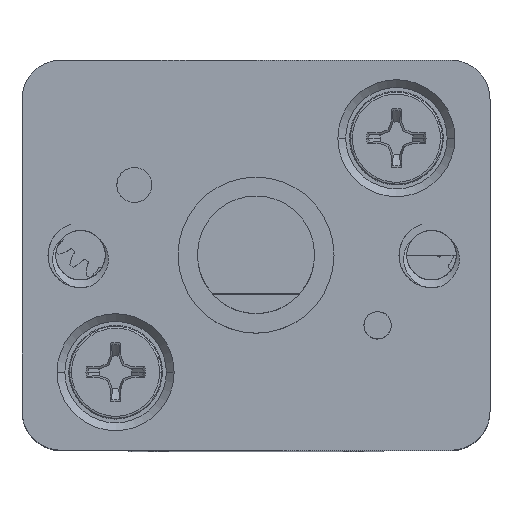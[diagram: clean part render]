
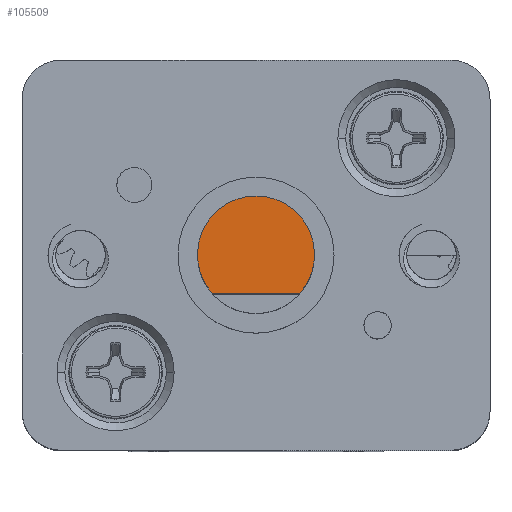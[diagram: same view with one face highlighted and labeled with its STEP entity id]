
A CAD part, top view. The second image highlights one B-rep face of the part: STEP entity #105509.
In plain terms, the highlighted planar face has unit normal (0, 0, 1).
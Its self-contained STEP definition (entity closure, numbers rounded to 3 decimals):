
#4926 = CARTESIAN_POINT ( 'NONE',  ( 0., 0., 10. ) ) ;
#9440 = CIRCLE ( 'NONE', #78369, 1.5 ) ;
#10069 = DIRECTION ( 'NONE',  ( 1., 0., 0. ) ) ;
#21149 = DIRECTION ( 'NONE',  ( 1., 0., 0. ) ) ;
#25763 = CARTESIAN_POINT ( 'NONE',  ( 1.118, -1., 10. ) ) ;
#28820 = VERTEX_POINT ( 'NONE', #37242 ) ;
#35487 = EDGE_CURVE ( 'NONE', #28820, #120498, #150772, .T. ) ;
#37242 = CARTESIAN_POINT ( 'NONE',  ( -1.5, 0., 10. ) ) ;
#45554 = ORIENTED_EDGE ( 'NONE', *, *, #35487, .F. ) ;
#46282 = LINE ( 'NONE', #54848, #79158 ) ;
#48266 = EDGE_CURVE ( 'NONE', #128253, #123071, #46282, .T. ) ;
#49502 = CARTESIAN_POINT ( 'NONE',  ( 0., 0., 10. ) ) ;
#51379 = ORIENTED_EDGE ( 'NONE', *, *, #48266, .T. ) ;
#53280 = DIRECTION ( 'NONE',  ( 0., 0., -1. ) ) ;
#53283 = EDGE_CURVE ( 'NONE', #120498, #123071, #121532, .T. ) ;
#54848 = CARTESIAN_POINT ( 'NONE',  ( -0.559, -1., 10. ) ) ;
#59126 = ORIENTED_EDGE ( 'NONE', *, *, #72772, .F. ) ;
#64116 = CARTESIAN_POINT ( 'NONE',  ( 0., 0., 10. ) ) ;
#71895 = AXIS2_PLACEMENT_3D ( 'NONE', #4926, #75106, #145299 ) ;
#72772 = EDGE_CURVE ( 'NONE', #128253, #28820, #9440, .T. ) ;
#75106 = DIRECTION ( 'NONE',  ( 0., 0., -1. ) ) ;
#78369 = AXIS2_PLACEMENT_3D ( 'NONE', #49502, #120459, #98078 ) ;
#79158 = VECTOR ( 'NONE', #10069, 1000. ) ;
#82106 = AXIS2_PLACEMENT_3D ( 'NONE', #64116, #53280, #111161 ) ;
#92107 = PLANE ( 'NONE',  #122270 ) ;
#98078 = DIRECTION ( 'NONE',  ( 1., 0., 0. ) ) ;
#105196 = DIRECTION ( 'NONE',  ( 0., 0., 1. ) ) ;
#105509 = ADVANCED_FACE ( 'NONE', ( #126850 ), #92107, .T. ) ;
#111161 = DIRECTION ( 'NONE',  ( 1., 0., 0. ) ) ;
#116761 = CARTESIAN_POINT ( 'NONE',  ( 0., 0., 10. ) ) ;
#120459 = DIRECTION ( 'NONE',  ( 0., 0., -1. ) ) ;
#120498 = VERTEX_POINT ( 'NONE', #137555 ) ;
#121532 = CIRCLE ( 'NONE', #82106, 1.5 ) ;
#122270 = AXIS2_PLACEMENT_3D ( 'NONE', #116761, #105196, #21149 ) ;
#123071 = VERTEX_POINT ( 'NONE', #25763 ) ;
#126850 = FACE_OUTER_BOUND ( 'NONE', #135262, .T. ) ;
#128253 = VERTEX_POINT ( 'NONE', #148936 ) ;
#135262 = EDGE_LOOP ( 'NONE', ( #51379, #145848, #45554, #59126 ) ) ;
#137555 = CARTESIAN_POINT ( 'NONE',  ( 1.5, 0., 10. ) ) ;
#145299 = DIRECTION ( 'NONE',  ( 1., 0., 0. ) ) ;
#145848 = ORIENTED_EDGE ( 'NONE', *, *, #53283, .F. ) ;
#148936 = CARTESIAN_POINT ( 'NONE',  ( -1.118, -1., 10. ) ) ;
#150772 = CIRCLE ( 'NONE', #71895, 1.5 ) ;
